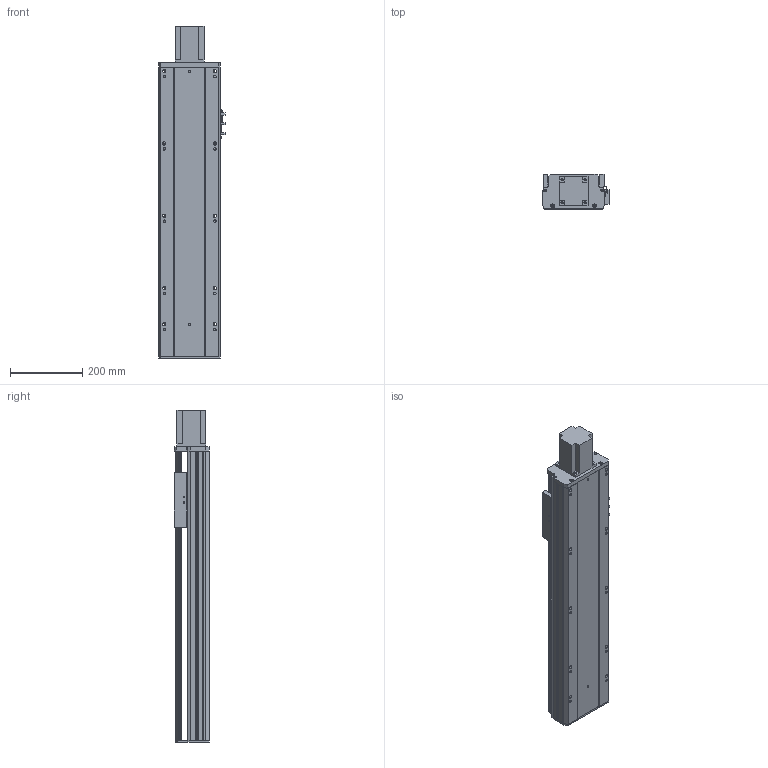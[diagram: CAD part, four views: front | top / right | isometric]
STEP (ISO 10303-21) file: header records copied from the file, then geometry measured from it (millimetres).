
FILE_DESCRIPTION (( 'STEP AP203' ), '1' );
FILE_NAME ('Y170-D10-S550-BD-P750W.STEP', '2020-01-22T04:00:36', ( '微软用户' ), ( '微软中国' ), 'SwSTEP 2.0', 'SolidWorks 2017', '' );
FILE_SCHEMA (( 'CONFIG_CONTROL_DESIGN' ));
Length unit declared in the file: millimetre
Products named in the file (10): Y170-萇儂楊擘啣--; 135-盓傅釱-FK15; 侂狟750W; Y170耜裔--準---; Y170-陔遴奻裔-BD; Y170--雄赽釱-梓--; YD-Y100-135-新外置传感挡片(通用）; Y170-D10-S550-BD-P750W; Y100-135俋离換覜ん; 170--掛极-BD
Assembly tree (11 placements, depth 2):
  Y170-D10-S550-BD-P750W
    YD-Y100-135-新外置传感挡片(通用）
    Y100-135俋离換覜ん  x3
    170--掛极-BD
    Y170-萇儂楊擘啣--
    135-盓傅釱-FK15
    侂狟750W
    Y170耜裔--準---
    Y170-陔遴奻裔-BD
    Y170--雄赽釱-梓--
Bounding box: 183.5 x 97 x 918.5 mm (x, y, z)
Volume: 4175353.6 mm3; surface area: 1345526 mm2
Topology: 11 solids, 11 shells, 804 faces, 2259 edges, 1496 vertices
Faces by surface type: cylinder 414, plane 388, torus 2
Entity records: 25871 total; most frequent: CARTESIAN_POINT 4539, DIRECTION 4345, ORIENTED_EDGE 4182, EDGE_CURVE 2091, AXIS2_PLACEMENT_3D 1558, VERTEX_POINT 1384, LINE 1229, VECTOR 1229
